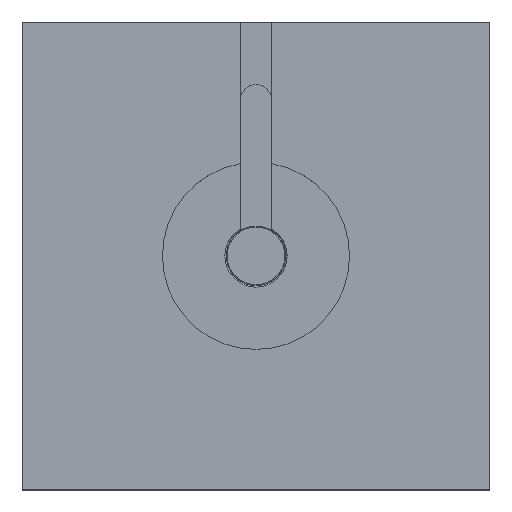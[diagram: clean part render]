
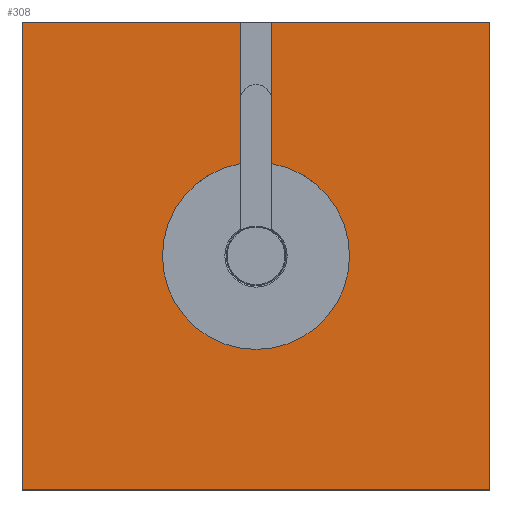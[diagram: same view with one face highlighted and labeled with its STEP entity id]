
A CAD part, top view. The second image highlights one B-rep face of the part: STEP entity #308.
In plain terms, the highlighted planar face has unit normal (0, 0, 1).
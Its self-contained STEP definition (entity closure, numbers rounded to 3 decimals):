
#308 = ADVANCED_FACE( '', ( #661 ), #662, .T. );
#661 = FACE_OUTER_BOUND( '', #1073, .T. );
#662 = PLANE( '', #1074 );
#1073 = EDGE_LOOP( '', ( #1848, #1849, #1850, #1851, #1852, #1853, #1854, #1855 ) );
#1074 = AXIS2_PLACEMENT_3D( '', #1856, #1857, #1858 );
#1848 = ORIENTED_EDGE( '', *, *, #2445, .T. );
#1849 = ORIENTED_EDGE( '', *, *, #2497, .T. );
#1850 = ORIENTED_EDGE( '', *, *, #2417, .T. );
#1851 = ORIENTED_EDGE( '', *, *, #2548, .T. );
#1852 = ORIENTED_EDGE( '', *, *, #2430, .T. );
#1853 = ORIENTED_EDGE( '', *, *, #2268, .T. );
#1854 = ORIENTED_EDGE( '', *, *, #2421, .T. );
#1855 = ORIENTED_EDGE( '', *, *, #2549, .T. );
#1856 = CARTESIAN_POINT( '', ( -150., -150., 0. ) );
#1857 = DIRECTION( '', ( 0., 0., 1. ) );
#1858 = DIRECTION( '', ( 0., -1., 0. ) );
#2268 = EDGE_CURVE( '', #2663, #2664, #2665, .T. );
#2417 = EDGE_CURVE( '', #2917, #2918, #2919, .T. );
#2421 = EDGE_CURVE( '', #2664, #2924, #2926, .T. );
#2430 = EDGE_CURVE( '', #2940, #2663, #2941, .T. );
#2445 = EDGE_CURVE( '', #2963, #2964, #2965, .T. );
#2497 = EDGE_CURVE( '', #2964, #2917, #3041, .T. );
#2548 = EDGE_CURVE( '', #2918, #2940, #3115, .T. );
#2549 = EDGE_CURVE( '', #2924, #2963, #3116, .T. );
#2663 = VERTEX_POINT( '', #3256 );
#2664 = VERTEX_POINT( '', #3257 );
#2665 = LINE( '', #3258, #3259 );
#2917 = VERTEX_POINT( '', #3656 );
#2918 = VERTEX_POINT( '', #3657 );
#2919 = LINE( '', #3658, #3659 );
#2924 = VERTEX_POINT( '', #3666 );
#2926 = LINE( '', #3669, #3670 );
#2940 = VERTEX_POINT( '', #3688 );
#2941 = LINE( '', #3689, #3690 );
#2963 = VERTEX_POINT( '', #3714 );
#2964 = VERTEX_POINT( '', #3715 );
#2965 = CIRCLE( '', #3716, 60. );
#3041 = LINE( '', #3825, #3826 );
#3115 = LINE( '', #3930, #3931 );
#3116 = LINE( '', #3932, #3933 );
#3256 = CARTESIAN_POINT( '', ( 150., -150., 0. ) );
#3257 = CARTESIAN_POINT( '', ( 150., 150., 0. ) );
#3258 = CARTESIAN_POINT( '', ( 150., -150., 0. ) );
#3259 = VECTOR( '', #4112, 1000. );
#3656 = CARTESIAN_POINT( '', ( -10., 150., 0. ) );
#3657 = CARTESIAN_POINT( '', ( -150., 150., 0. ) );
#3658 = CARTESIAN_POINT( '', ( 150., 150., 0. ) );
#3659 = VECTOR( '', #4302, 1000. );
#3666 = CARTESIAN_POINT( '', ( 10., 150., 0. ) );
#3669 = CARTESIAN_POINT( '', ( 150., 150., 0. ) );
#3670 = VECTOR( '', #4306, 1000. );
#3688 = CARTESIAN_POINT( '', ( -150., -150., 0. ) );
#3689 = CARTESIAN_POINT( '', ( -150., -150., 0. ) );
#3690 = VECTOR( '', #4317, 1000. );
#3714 = CARTESIAN_POINT( '', ( 10., 59.161, 0. ) );
#3715 = CARTESIAN_POINT( '', ( -10., 59.161, 0. ) );
#3716 = AXIS2_PLACEMENT_3D( '', #4344, #4345, #4346 );
#3825 = CARTESIAN_POINT( '', ( -10., 0., 0. ) );
#3826 = VECTOR( '', #4411, 1000. );
#3930 = CARTESIAN_POINT( '', ( -150., 150., 0. ) );
#3931 = VECTOR( '', #4474, 1000. );
#3932 = CARTESIAN_POINT( '', ( 10., 150., 0. ) );
#3933 = VECTOR( '', #4475, 1000. );
#4112 = DIRECTION( '', ( 0., 1., 0. ) );
#4302 = DIRECTION( '', ( -1., 0., 0. ) );
#4306 = DIRECTION( '', ( -1., 0., 0. ) );
#4317 = DIRECTION( '', ( 1., 0., 0. ) );
#4344 = CARTESIAN_POINT( '', ( 0., 0., 0. ) );
#4345 = DIRECTION( '', ( 0., 0., -1. ) );
#4346 = DIRECTION( '', ( -1., 0., 0. ) );
#4411 = DIRECTION( '', ( 0., 1., 0. ) );
#4474 = DIRECTION( '', ( 0., -1., 0. ) );
#4475 = DIRECTION( '', ( 0., -1., 0. ) );
